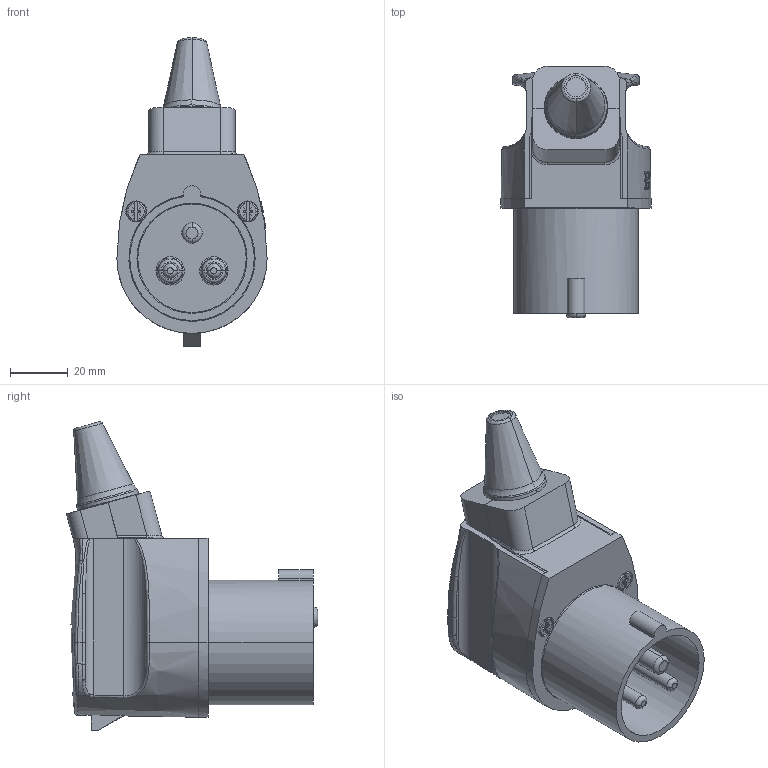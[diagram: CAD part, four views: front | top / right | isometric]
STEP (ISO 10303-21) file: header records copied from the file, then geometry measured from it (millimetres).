
FILE_DESCRIPTION((''),'2;1');
FILE_NAME('1108799_ASM_SW0001','2018-01-25T',('gisse'),('MENNEKES'),'PRO/ENGINEER BY PARAMETRIC TECHNOLOGY CORPORATION, 2015440','PRO/ENGINEER BY PARAMETRIC TECHNOLOGY CORPORATION, 2015440','');
FILE_SCHEMA(('AUTOMOTIVE_DESIGN { 1 0 10303 214 1 1 1 1 }'));
Length unit declared in the file: millimetre
Products named in the file (1): 1108799_ASM_SW0001
Bounding box: 52.1 x 87.11 x 106.99 mm (x, y, z)
Volume: 144600 mm3; surface area: 29522.7 mm2
Topology: 1 solids, 1 shells, 303 faces, 804 edges, 514 vertices
Faces by surface type: plane 135, cylinder 69, bspline 49, torus 26, cone 24
Entity records: 16432 total; most frequent: CARTESIAN_POINT 5414, ORIENTED_EDGE 1608, DIRECTION 1380, EDGE_CURVE 804, FILL_AREA_STYLE_COLOUR 543, FILL_AREA_STYLE 543, SURFACE_STYLE_FILL_AREA 543, SURFACE_SIDE_STYLE 543
